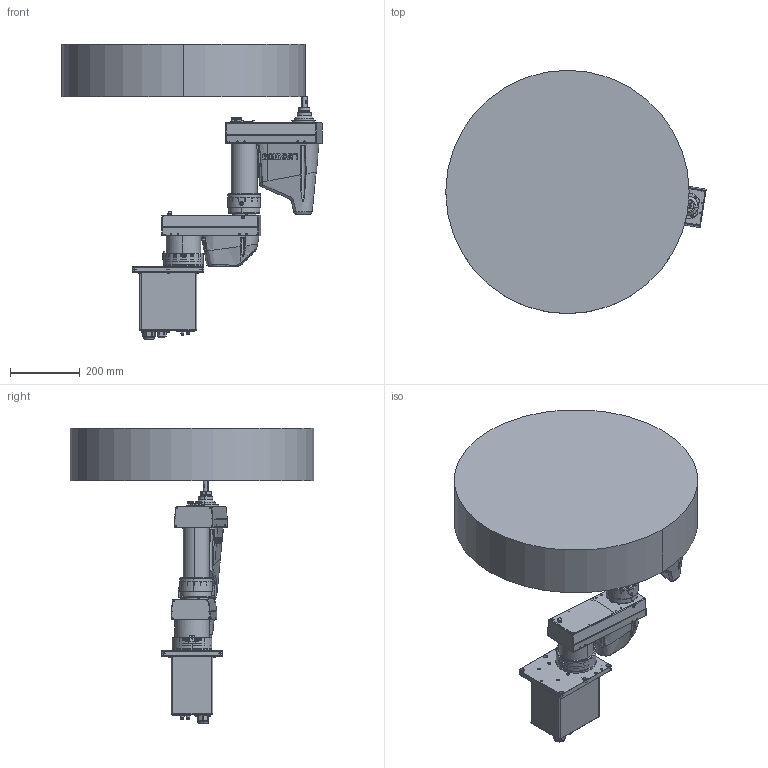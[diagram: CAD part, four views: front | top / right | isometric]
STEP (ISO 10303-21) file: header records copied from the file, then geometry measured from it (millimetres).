
FILE_DESCRIPTION (( 'STEP AP214' ), '1' );
FILE_NAME ('ST4-R350 衄LOGO湍堍雄毓峓2017.STEP', '2024-01-27T07:38:20', ( '' ), ( '' ), 'SwSTEP 2.0', 'SolidWorks 2017', '' );
FILE_SCHEMA (( 'AUTOMOTIVE_DESIGN' ));
Length unit declared in the file: millimetre
Products named in the file (6): 复件 ST4-R350运动范围^ST4-R350 有LOGO带运动范围2017; 复件 丝杆^ST4-R350 有LOGO带运动范围2017; 复件 ST4-R350-03  小臂部分有logo^ST4-R350 有LOGO带运动范围2017; ST4-R350 衄LOGO湍堍雄毓峓2017; 复件 ST4-R350-02  J2部分^ST4-R350 有LOGO带运动范围2017; 复件 ST5-R350-01   J1部分^ST4-R350 有LOGO带运动范围2017
Assembly tree (5 placements, depth 2):
  ST4-R350 衄LOGO湍堍雄毓峓2017
    复件 ST5-R350-01   J1部分^ST4-R350 有LOGO带运动范围2017
    复件 ST4-R350-02  J2部分^ST4-R350 有LOGO带运动范围2017
    复件 ST4-R350-03  小臂部分有logo^ST4-R350 有LOGO带运动范围2017
    复件 丝杆^ST4-R350 有LOGO带运动范围2017
    复件 ST4-R350运动范围^ST4-R350 有LOGO带运动范围2017
Bounding box: 749.07 x 700 x 848.5 mm (x, y, z)
Volume: 68908246.7 mm3; surface area: 2062651.3 mm2
Topology: 49 solids, 97 shells, 5159 faces, 12899 edges, 8247 vertices
Faces by surface type: plane 1918, cylinder 1514, cone 944, bspline 689, torus 94
Entity records: 228653 total; most frequent: CARTESIAN_POINT 108260, ORIENTED_EDGE 25432, DIRECTION 23758, EDGE_CURVE 12716, AXIS2_PLACEMENT_3D 8788, VERTEX_POINT 8247, VECTOR 6182, LINE 6182
